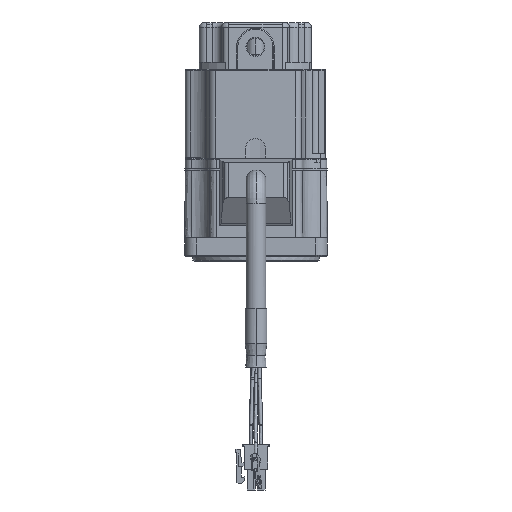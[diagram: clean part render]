
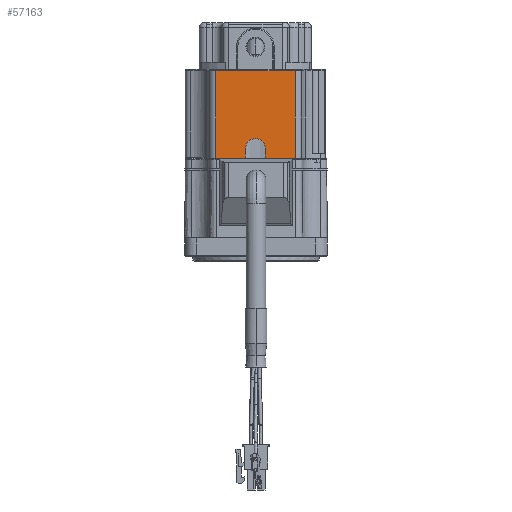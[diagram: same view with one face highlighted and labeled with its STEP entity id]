
A CAD part, front view. The second image highlights one B-rep face of the part: STEP entity #57163.
In plain terms, the highlighted planar face has unit normal (0, -1, 0).
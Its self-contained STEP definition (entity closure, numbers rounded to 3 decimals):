
#576 = ORIENTED_EDGE ( 'NONE', *, *, #39179, .T. ) ;
#727 = VERTEX_POINT ( 'NONE', #11021 ) ;
#1386 = CARTESIAN_POINT ( 'NONE',  ( 4.75, -30., 0.5 ) ) ;
#1551 = VERTEX_POINT ( 'NONE', #48581 ) ;
#1669 = CARTESIAN_POINT ( 'NONE',  ( -17., -30., 0. ) ) ;
#1829 = VERTEX_POINT ( 'NONE', #58265 ) ;
#1940 = CIRCLE ( 'NONE', #27164, 0.5 ) ;
#2359 = DIRECTION ( 'NONE',  ( 0., 0., 1. ) ) ;
#2593 = ORIENTED_EDGE ( 'NONE', *, *, #51327, .F. ) ;
#3569 = ORIENTED_EDGE ( 'NONE', *, *, #58980, .F. ) ;
#4669 = CARTESIAN_POINT ( 'NONE',  ( -17., -30., 0. ) ) ;
#4777 = CIRCLE ( 'NONE', #57262, 0.5 ) ;
#5059 = LINE ( 'NONE', #50091, #24966 ) ;
#5260 = PLANE ( 'NONE',  #43277 ) ;
#5943 = DIRECTION ( 'NONE',  ( 1., 0., 0. ) ) ;
#6074 = ORIENTED_EDGE ( 'NONE', *, *, #49017, .T. ) ;
#7248 = EDGE_CURVE ( 'NONE', #1551, #1829, #18456, .T. ) ;
#7773 = AXIS2_PLACEMENT_3D ( 'NONE', #36124, #8096, #30641 ) ;
#8096 = DIRECTION ( 'NONE',  ( 0., 1., 0. ) ) ;
#8390 = CARTESIAN_POINT ( 'NONE',  ( 4.25, -30., 4.2 ) ) ;
#9424 = VECTOR ( 'NONE', #37298, 1000. ) ;
#9961 = ORIENTED_EDGE ( 'NONE', *, *, #26928, .F. ) ;
#10267 = DIRECTION ( 'NONE',  ( 0., 1., 0. ) ) ;
#11021 = CARTESIAN_POINT ( 'NONE',  ( 17., -30., 37.5 ) ) ;
#12010 = CARTESIAN_POINT ( 'NONE',  ( 4.75, -30., 0. ) ) ;
#12120 = EDGE_LOOP ( 'NONE', ( #30383, #57632, #48806, #3569, #9961, #36592, #2593, #29374, #13688, #6074, #576, #40885 ) ) ;
#13652 = AXIS2_PLACEMENT_3D ( 'NONE', #32710, #38794, #24727 ) ;
#13688 = ORIENTED_EDGE ( 'NONE', *, *, #54693, .T. ) ;
#15080 = LINE ( 'NONE', #15372, #20051 ) ;
#15084 = DIRECTION ( 'NONE',  ( 0., 1., 0. ) ) ;
#15187 = EDGE_CURVE ( 'NONE', #40571, #23811, #5059, .T. ) ;
#15372 = CARTESIAN_POINT ( 'NONE',  ( -17., -30., 37.5 ) ) ;
#16249 = CARTESIAN_POINT ( 'NONE',  ( -17., -30., 37.5 ) ) ;
#16262 = DIRECTION ( 'NONE',  ( 1., 0., 0. ) ) ;
#18456 = CIRCLE ( 'NONE', #59293, 0.5 ) ;
#20051 = VECTOR ( 'NONE', #5943, 1000. ) ;
#21017 = LINE ( 'NONE', #35035, #25225 ) ;
#21434 = EDGE_CURVE ( 'NONE', #35892, #40820, #1940, .T. ) ;
#21545 = DIRECTION ( 'NONE',  ( -0.707, 0., -0.707 ) ) ;
#23215 = DIRECTION ( 'NONE',  ( 0., -1., 0. ) ) ;
#23315 = DIRECTION ( 'NONE',  ( 1., 0., 0. ) ) ;
#23810 = FACE_OUTER_BOUND ( 'NONE', #12120, .T. ) ;
#23811 = VERTEX_POINT ( 'NONE', #35521 ) ;
#24294 = CARTESIAN_POINT ( 'NONE',  ( 4.75, -30., 0.5 ) ) ;
#24392 = VECTOR ( 'NONE', #16262, 1000. ) ;
#24727 = DIRECTION ( 'NONE',  ( 0.707, 0., -0.707 ) ) ;
#24966 = VECTOR ( 'NONE', #23315, 1000. ) ;
#25225 = VECTOR ( 'NONE', #29546, 1000. ) ;
#26923 = CARTESIAN_POINT ( 'NONE',  ( -4.25, -30., 0.5 ) ) ;
#26928 = EDGE_CURVE ( 'NONE', #40571, #48735, #27496, .T. ) ;
#27164 = AXIS2_PLACEMENT_3D ( 'NONE', #29141, #10267, #51348 ) ;
#27496 = LINE ( 'NONE', #36651, #55349 ) ;
#28097 = DIRECTION ( 'NONE',  ( 0., 0., -1. ) ) ;
#28629 = CARTESIAN_POINT ( 'NONE',  ( 4.25, -30., 4.2 ) ) ;
#29020 = EDGE_CURVE ( 'NONE', #55576, #53707, #36058, .T. ) ;
#29141 = CARTESIAN_POINT ( 'NONE',  ( -4.75, -30., 0.5 ) ) ;
#29374 = ORIENTED_EDGE ( 'NONE', *, *, #21434, .F. ) ;
#29546 = DIRECTION ( 'NONE',  ( 0., 0., 1. ) ) ;
#30077 = LINE ( 'NONE', #58063, #43239 ) ;
#30383 = ORIENTED_EDGE ( 'NONE', *, *, #50125, .F. ) ;
#30641 = DIRECTION ( 'NONE',  ( 1., 0., 0. ) ) ;
#30821 = VERTEX_POINT ( 'NONE', #28629 ) ;
#32710 = CARTESIAN_POINT ( 'NONE',  ( -4.75, -30., 0.5 ) ) ;
#35035 = CARTESIAN_POINT ( 'NONE',  ( 17., -30., 0. ) ) ;
#35521 = CARTESIAN_POINT ( 'NONE',  ( -4.75, -30., 0. ) ) ;
#35892 = VERTEX_POINT ( 'NONE', #26923 ) ;
#36058 = LINE ( 'NONE', #12010, #24392 ) ;
#36124 = CARTESIAN_POINT ( 'NONE',  ( 0., -30., 4.2 ) ) ;
#36592 = ORIENTED_EDGE ( 'NONE', *, *, #15187, .T. ) ;
#36651 = CARTESIAN_POINT ( 'NONE',  ( -17., -30., 0. ) ) ;
#37298 = DIRECTION ( 'NONE',  ( 0., 0., -1. ) ) ;
#38794 = DIRECTION ( 'NONE',  ( 0., 1., 0. ) ) ;
#39179 = EDGE_CURVE ( 'NONE', #30821, #1829, #50048, .T. ) ;
#39902 = CARTESIAN_POINT ( 'NONE',  ( 17., -30., 0. ) ) ;
#40571 = VERTEX_POINT ( 'NONE', #1669 ) ;
#40820 = VERTEX_POINT ( 'NONE', #47546 ) ;
#40885 = ORIENTED_EDGE ( 'NONE', *, *, #7248, .F. ) ;
#43094 = DIRECTION ( 'NONE',  ( -0.707, 0., -0.707 ) ) ;
#43239 = VECTOR ( 'NONE', #2359, 1000. ) ;
#43277 = AXIS2_PLACEMENT_3D ( 'NONE', #4669, #23215, #28097 ) ;
#43756 = CIRCLE ( 'NONE', #13652, 0.5 ) ;
#44980 = DIRECTION ( 'NONE',  ( 0., 1., 0. ) ) ;
#45771 = DIRECTION ( 'NONE',  ( 0., 0., 1. ) ) ;
#47546 = CARTESIAN_POINT ( 'NONE',  ( -4.396, -30., 0.146 ) ) ;
#48265 = EDGE_CURVE ( 'NONE', #53707, #727, #21017, .T. ) ;
#48581 = CARTESIAN_POINT ( 'NONE',  ( 4.396, -30., 0.146 ) ) ;
#48735 = VERTEX_POINT ( 'NONE', #16249 ) ;
#48806 = ORIENTED_EDGE ( 'NONE', *, *, #48265, .T. ) ;
#49017 = EDGE_CURVE ( 'NONE', #50593, #30821, #56352, .T. ) ;
#50048 = LINE ( 'NONE', #8390, #9424 ) ;
#50091 = CARTESIAN_POINT ( 'NONE',  ( -17., -30., 0. ) ) ;
#50125 = EDGE_CURVE ( 'NONE', #55576, #1551, #4777, .T. ) ;
#50593 = VERTEX_POINT ( 'NONE', #59086 ) ;
#51327 = EDGE_CURVE ( 'NONE', #40820, #23811, #43756, .T. ) ;
#51348 = DIRECTION ( 'NONE',  ( 0.707, 0., -0.707 ) ) ;
#53457 = CARTESIAN_POINT ( 'NONE',  ( 4.75, -30., 0. ) ) ;
#53707 = VERTEX_POINT ( 'NONE', #39902 ) ;
#54693 = EDGE_CURVE ( 'NONE', #35892, #50593, #30077, .T. ) ;
#55349 = VECTOR ( 'NONE', #45771, 1000. ) ;
#55576 = VERTEX_POINT ( 'NONE', #53457 ) ;
#56352 = CIRCLE ( 'NONE', #7773, 4.25 ) ;
#57163 = ADVANCED_FACE ( 'NONE', ( #23810 ), #5260, .T. ) ;
#57262 = AXIS2_PLACEMENT_3D ( 'NONE', #1386, #15084, #43094 ) ;
#57632 = ORIENTED_EDGE ( 'NONE', *, *, #29020, .T. ) ;
#58063 = CARTESIAN_POINT ( 'NONE',  ( -4.25, -30., 0.5 ) ) ;
#58265 = CARTESIAN_POINT ( 'NONE',  ( 4.25, -30., 0.5 ) ) ;
#58980 = EDGE_CURVE ( 'NONE', #48735, #727, #15080, .T. ) ;
#59086 = CARTESIAN_POINT ( 'NONE',  ( -4.25, -30., 4.2 ) ) ;
#59293 = AXIS2_PLACEMENT_3D ( 'NONE', #24294, #44980, #21545 ) ;
